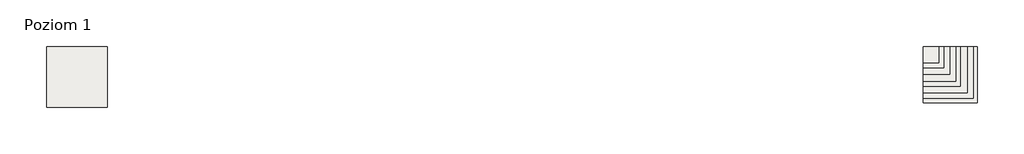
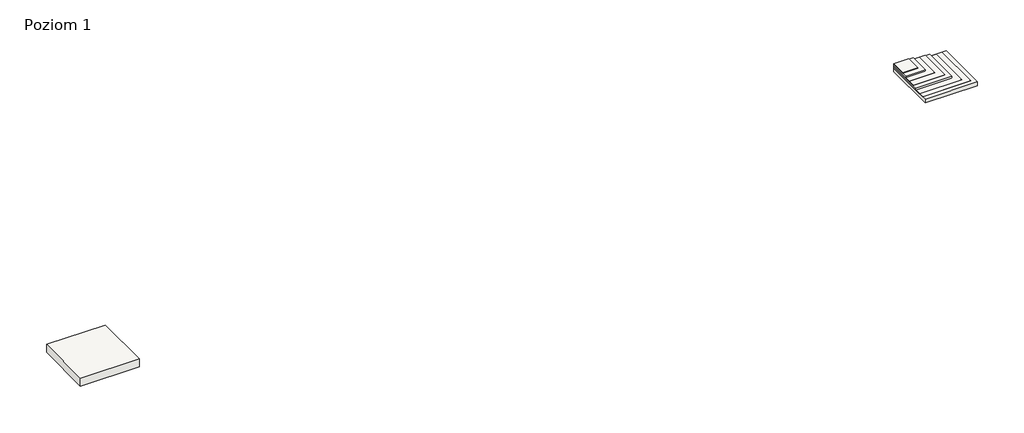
# One storey: 2 roofs.
"""IFC4 building model written with IfcOpenShell, lengths in millimetres."""

from ifc_helpers import new_model, si_unit, frame, origin, origin_with_axes, place, context, project, spatial, polyline, outline, extrude, element, save

model = new_model("IFC4")

# Units and contexts
model_context = context("Model", 3, world=origin())
ifc_project = project(units=[si_unit("LENGTHUNIT", "METRE", prefix="MILLI")], contexts=[model_context])

# Site, building, storey
site = spatial("IfcSite", under=ifc_project)
building = spatial("IfcBuilding", under=site)
storey = spatial("IfcBuildingStorey", under=building, Name="Poziom 1", Elevation=0.0)

# Roofs
placement = place(None, origin())
element("IfcRoof", 1, ObjectType="Dachy zielone w uprawie ekstensywnej – Atus CRICKET 20/1000 - układ odwrócony", at=placement, inside=storey, context=model_context, shape_type="SweptSolid", body=[
    extrude(outline(polyline([(25205.1555546, -525.5470033), (28205.1555546, -525.5470033), (28205.1555546, -3525.5470033), (25205.1555546, -3525.5470033), (25205.1555546, -525.5470033)])), origin_with_axes(), (0.0, 0.0, 1.0), 430.0),
])
element("IfcRoof", 2, ObjectType="Dachy zielone w uprawie ekstensywnej – Atus CRICKET 20/1000 - układ odwrócony", at=placement, inside=storey, context=model_context, shape_type="SweptSolid", body=[
    extrude(outline(polyline([(68505.1555546, -525.5470033), (69274.6514475, -525.5470033), (69274.6514475, -1325.5470033), (68505.1555546, -1325.5470033), (68505.1555546, -525.5470033)])), frame((0.0, 0.0, 405.0), z_axis=(0.0, 0.0, 1.0), x_axis=(1.0, 0.0, 0.0)), (0.0, 0.0, 1.0), 25.0),
    extrude(outline(polyline([(68505.1555546, -525.5470033), (69513.3580355, -525.5470033), (69513.3580355, -1575.8862993), (68505.1555546, -1575.8862993), (68505.1555546, -525.5470033)])), frame((0.0, 0.0, 325.0), z_axis=(0.0, 0.0, 1.0), x_axis=(1.0, 0.0, 0.0)), (0.0, 0.0, 1.0), 80.0),
    extrude(outline(polyline([(68505.1555546, -525.5470033), (69805.1555546, -525.5470033), (69805.1555546, -1905.5470033), (68505.1555546, -1905.5470033), (68505.1555546, -525.5470033)])), frame((0.0, 0.0, 324.0), z_axis=(0.0, 0.0, 1.0), x_axis=(1.0, 0.0, 0.0)), (0.0, 0.0, 1.0), 1.0),
    extrude(outline(polyline([(68505.1555546, -525.5470033), (70125.1555546, -525.5470033), (70125.1555546, -2245.5470033), (68505.1555546, -2245.5470033), (68505.1555546, -525.5470033)])), frame((0.0, 0.0, 304.0), z_axis=(0.0, 0.0, 1.0), x_axis=(1.0, 0.0, 0.0)), (0.0, 0.0, 1.0), 20.0),
    extrude(outline(polyline([(68505.1555546, -525.5470033), (70344.2074193, -525.5470033), (70344.2074193, -2485.4549433), (68505.1555546, -2485.4549433), (68505.1555546, -525.5470033)])), frame((0.0, 0.0, 204.0), z_axis=(0.0, 0.0, 1.0), x_axis=(1.0, 0.0, 0.0)), (0.0, 0.0, 1.0), 100.0),
    extrude(outline(polyline([(68505.1555546, -525.5470033), (70676.1542991, -525.5470033), (70676.1542991, -2801.1513671), (68505.1555546, -2801.1513671), (68505.1555546, -525.5470033)])), frame((0.0, 0.0, 202.0), z_axis=(0.0, 0.0, 1.0), x_axis=(1.0, 0.0, 0.0)), (0.0, 0.0, 1.0), 2.0),
    extrude(outline(polyline([(68505.1555546, -525.5470033), (70966.4963765, -525.5470033), (70966.4963765, -3077.5062833), (68505.1555546, -3077.5062833), (68505.1555546, -525.5470033)])), frame((0.0, 0.0, 200.0), z_axis=(0.0, 0.0, 1.0), x_axis=(1.0, 0.0, 0.0)), (0.0, 0.0, 1.0), 2.0),
    extrude(outline(polyline([(68505.1555546, -525.5470033), (71185.1555546, -525.5470033), (71185.1555546, -3296.6662581), (68505.1555546, -3296.6662581), (68505.1555546, -525.5470033)])), origin_with_axes(), (0.0, 0.0, 1.0), 200.0),
])

save(model, "model.ifc")
